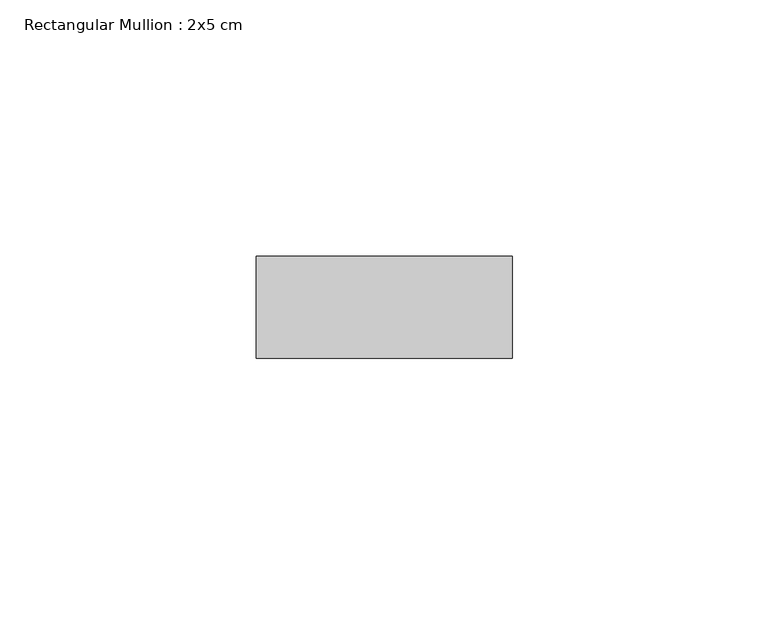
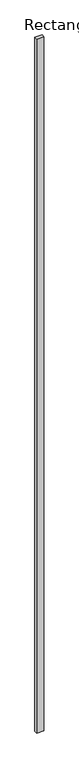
"""IFC4 building model written with IfcOpenShell, lengths in millimetres: member geometry, Rectangular Mullion : 2x5 cm."""

from ifc_helpers import new_model, si_unit, frame, origin, place, context, project, spatial, polyline, outline, extrude, source, transform, mapped, element, save


def rectangular_mullion_2x5_cm_e4b01166(model_context):
    return source(origin(), model_context, "Body", "SweptSolid", [
        extrude(outline(polyline([(0.0, 20.0), (0.0, 0.0), (-50.0, 0.0), (-50.0, 20.0), (0.0, 20.0)])), frame((0.0, 0.0, -5000.0), z_axis=(0.0, 0.0, 1.0), x_axis=(1.0, 0.0, 0.0)), (0.0, 0.0, 1.0), 5000.0),
    ])


if __name__ == "__main__":
    model = new_model("IFC4")
    model_context = context("Model", 3, world=origin())
    ifc_project = project(units=[si_unit("LENGTHUNIT", "METRE", prefix="MILLI")], contexts=[model_context])
    site = spatial("IfcSite", under=ifc_project)
    building = spatial("IfcBuilding", under=site)
    placement = place(None, origin())
    rectangular_mullion_2x5_cm_shape = rectangular_mullion_2x5_cm_e4b01166(model_context)
    element("IfcMember", 1, ObjectType="Rectangular Mullion : 2x5 cm", at=placement, inside=building, context=model_context, shape_type="MappedRepresentation", body=[
        mapped(rectangular_mullion_2x5_cm_shape, transform((0.0, 0.0, 0.0), x_axis=(1.0, 0.0, 0.0), y_axis=(0.0, 1.0, 0.0), z_axis=(0.0, 0.0, 1.0))),
    ])
    save(model, "model.ifc")
